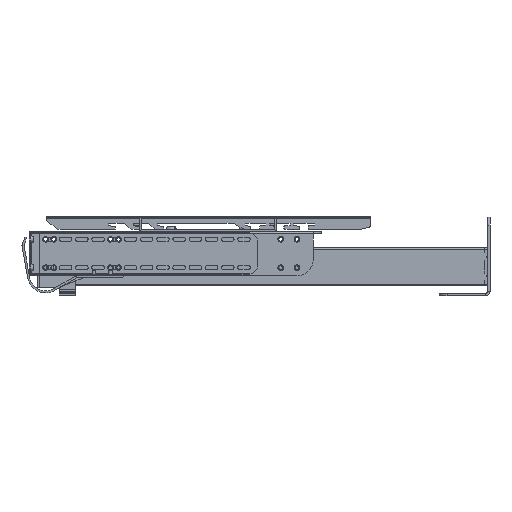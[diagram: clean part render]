
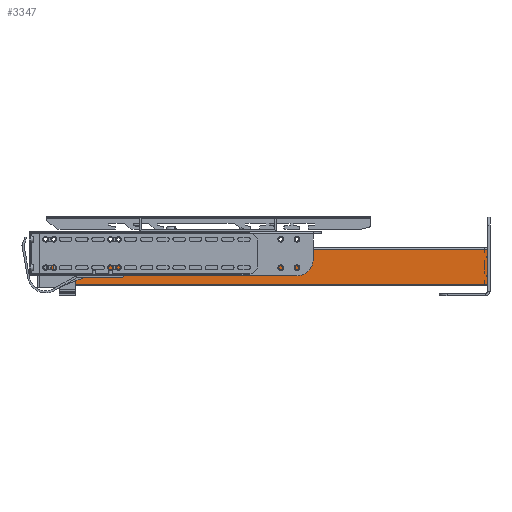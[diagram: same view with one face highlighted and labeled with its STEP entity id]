
A CAD part, left-side view. The second image highlights one B-rep face of the part: STEP entity #3347.
In plain terms, the highlighted planar face has unit normal (-1, 0, 0).
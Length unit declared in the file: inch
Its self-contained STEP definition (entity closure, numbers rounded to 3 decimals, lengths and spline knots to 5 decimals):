
#15 = VECTOR ( 'NONE', #37300, 39.37008 ) ;
#2159 = EDGE_LOOP ( 'NONE', ( #24084, #50652, #63701, #74685 ) ) ;
#2933 = CARTESIAN_POINT ( 'NONE',  ( 0., 13.59907, -0.94488 ) ) ;
#3181 = DIRECTION ( 'NONE',  ( 0., 0., 1. ) ) ;
#3347 = ADVANCED_FACE ( 'NONE', ( #65858, #50965 ), #13313, .F. ) ;
#5394 = CARTESIAN_POINT ( 'NONE',  ( 0., 27.06363, -1.1811 ) ) ;
#5407 = VERTEX_POINT ( 'NONE', #32353 ) ;
#6247 = ORIENTED_EDGE ( 'NONE', *, *, #13384, .T. ) ;
#8331 = LINE ( 'NONE', #11599, #23084 ) ;
#9205 = CARTESIAN_POINT ( 'NONE',  ( 0., 26.74867, -0.94488 ) ) ;
#9395 = CARTESIAN_POINT ( 'NONE',  ( 0., 26.74867, -1.1811 ) ) ;
#11599 = CARTESIAN_POINT ( 'NONE',  ( 0., 26.90615, -1.1811 ) ) ;
#13313 = PLANE ( 'NONE',  #28033 ) ;
#13384 = EDGE_CURVE ( 'NONE', #62644, #28052, #72804, .T. ) ;
#13507 = CARTESIAN_POINT ( 'NONE',  ( 0., 13.59907, -1.41732 ) ) ;
#15587 = CARTESIAN_POINT ( 'NONE',  ( 0., 26.90615, -0.94488 ) ) ;
#16421 = EDGE_CURVE ( 'NONE', #57251, #72892, #8331, .T. ) ;
#16608 = LINE ( 'NONE', #62543, #79876 ) ;
#18220 = VECTOR ( 'NONE', #34719, 39.37008 ) ;
#18331 = CARTESIAN_POINT ( 'NONE',  ( 0., 27.06363, -0.11811 ) ) ;
#19892 = DIRECTION ( 'NONE',  ( 1., 0., 0. ) ) ;
#20587 = VECTOR ( 'NONE', #71975, 39.37008 ) ;
#21085 = VECTOR ( 'NONE', #30461, 39.37008 ) ;
#21385 = EDGE_CURVE ( 'NONE', #5407, #76359, #69584, .T. ) ;
#23084 = VECTOR ( 'NONE', #62124, 39.37008 ) ;
#24084 = ORIENTED_EDGE ( 'NONE', *, *, #57807, .F. ) ;
#26134 = DIRECTION ( 'NONE',  ( 0., -1., 0. ) ) ;
#27457 = ORIENTED_EDGE ( 'NONE', *, *, #58599, .F. ) ;
#28033 = AXIS2_PLACEMENT_3D ( 'NONE', #57677, #19892, #64130 ) ;
#28052 = VERTEX_POINT ( 'NONE', #58647 ) ;
#30461 = DIRECTION ( 'NONE',  ( 0., 0., 1. ) ) ;
#30981 = DIRECTION ( 'NONE',  ( 0., 1., 0. ) ) ;
#31552 = CARTESIAN_POINT ( 'NONE',  ( 0., 26.74867, -1.41732 ) ) ;
#32353 = CARTESIAN_POINT ( 'NONE',  ( 0., 27.06363, -2.24409 ) ) ;
#33335 = CARTESIAN_POINT ( 'NONE',  ( 0., 0.1345, -2.24409 ) ) ;
#33497 = LINE ( 'NONE', #68939, #15 ) ;
#34719 = DIRECTION ( 'NONE',  ( 0., 0., 1. ) ) ;
#34899 = EDGE_CURVE ( 'NONE', #72892, #47932, #50811, .T. ) ;
#36884 = LINE ( 'NONE', #9395, #18220 ) ;
#37300 = DIRECTION ( 'NONE',  ( 0., 1., 0. ) ) ;
#37526 = ORIENTED_EDGE ( 'NONE', *, *, #81053, .T. ) ;
#41551 = EDGE_LOOP ( 'NONE', ( #37526, #77541, #27457, #6247 ) ) ;
#47932 = VERTEX_POINT ( 'NONE', #31552 ) ;
#48823 = VECTOR ( 'NONE', #26134, 39.37008 ) ;
#50652 = ORIENTED_EDGE ( 'NONE', *, *, #34899, .F. ) ;
#50811 = LINE ( 'NONE', #13507, #48823 ) ;
#50965 = FACE_OUTER_BOUND ( 'NONE', #41551, .T. ) ;
#52708 = VERTEX_POINT ( 'NONE', #9205 ) ;
#54152 = LINE ( 'NONE', #2933, #20587 ) ;
#55917 = VECTOR ( 'NONE', #3181, 39.37008 ) ;
#57251 = VERTEX_POINT ( 'NONE', #15587 ) ;
#57677 = CARTESIAN_POINT ( 'NONE',  ( 0., 27.60222, -2.28661 ) ) ;
#57807 = EDGE_CURVE ( 'NONE', #47932, #52708, #36884, .T. ) ;
#58599 = EDGE_CURVE ( 'NONE', #62644, #5407, #33497, .T. ) ;
#58647 = CARTESIAN_POINT ( 'NONE',  ( 0., 0.1345, -0.11811 ) ) ;
#62124 = DIRECTION ( 'NONE',  ( 0., 0., -1. ) ) ;
#62543 = CARTESIAN_POINT ( 'NONE',  ( 0., 13.59907, -0.11811 ) ) ;
#62644 = VERTEX_POINT ( 'NONE', #33335 ) ;
#63701 = ORIENTED_EDGE ( 'NONE', *, *, #16421, .F. ) ;
#64130 = DIRECTION ( 'NONE',  ( 0., 0., 1. ) ) ;
#65626 = CARTESIAN_POINT ( 'NONE',  ( 0., 0.1345, -1.1811 ) ) ;
#65858 = FACE_BOUND ( 'NONE', #2159, .T. ) ;
#66767 = CARTESIAN_POINT ( 'NONE',  ( 0., 26.90615, -1.41732 ) ) ;
#68939 = CARTESIAN_POINT ( 'NONE',  ( 0., 13.59907, -2.24409 ) ) ;
#69584 = LINE ( 'NONE', #5394, #21085 ) ;
#71975 = DIRECTION ( 'NONE',  ( 0., 1., 0. ) ) ;
#72804 = LINE ( 'NONE', #65626, #55917 ) ;
#72892 = VERTEX_POINT ( 'NONE', #66767 ) ;
#74685 = ORIENTED_EDGE ( 'NONE', *, *, #80793, .F. ) ;
#76359 = VERTEX_POINT ( 'NONE', #18331 ) ;
#77541 = ORIENTED_EDGE ( 'NONE', *, *, #21385, .F. ) ;
#79876 = VECTOR ( 'NONE', #30981, 39.37008 ) ;
#80793 = EDGE_CURVE ( 'NONE', #52708, #57251, #54152, .T. ) ;
#81053 = EDGE_CURVE ( 'NONE', #28052, #76359, #16608, .T. ) ;
